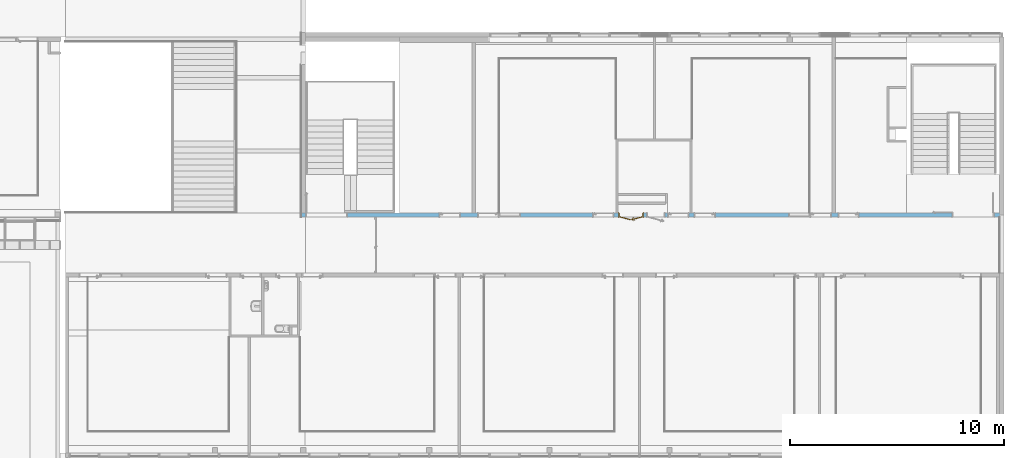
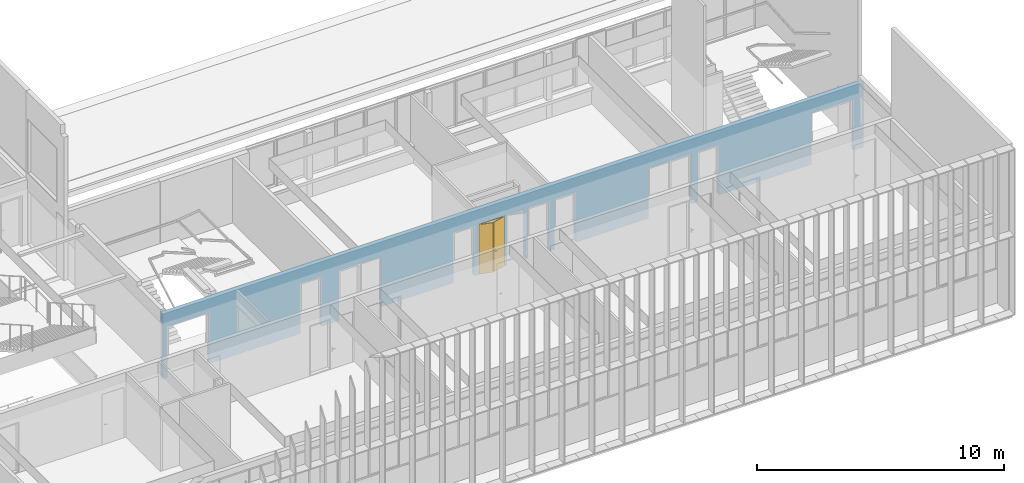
# One storey, part 87 of 106: 1 door, 13 openings, plus 1 element that does not belong to this part.
"""IFC2X3 building model written with IfcOpenShell, lengths in centimetres."""

from ifc_helpers import new_model, entity, si_unit, converted_unit, derived_unit, direction, frame, frame_2d, origin, place, context, subcontext, project, spatial, polyline, rectangle, extrude, clip, bounded_halfspace, faceted_brep, source, transform, mapped, material, material_list, layer, layer_set, layer_usage, type_object, type_shapes, element, fill, save


model = new_model("IFC2X3")

# Units and contexts
model_context = context("Model", 3, precision=0.001, world=origin(), true_north=direction((6.12303176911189e-17, 1.0)))
body_context = subcontext(model_context, "Body", "Model", "MODEL_VIEW")
ifc_project = project(units=[si_unit("LENGTHUNIT", "METRE", prefix="CENTI"), si_unit("AREAUNIT", "SQUARE_METRE"), si_unit("VOLUMEUNIT", "CUBIC_METRE"), converted_unit("PLANEANGLEUNIT", "DEGREE", entity("IfcRatioMeasure", 0.0174532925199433), si_unit("PLANEANGLEUNIT", "RADIAN"), dimensions=[0, 0, 0, 0, 0, 0, 0]), si_unit("MASSUNIT", "GRAM", prefix="KILO"), derived_unit("MASSDENSITYUNIT", [(si_unit("MASSUNIT", "GRAM", prefix="KILO"), 1), (si_unit("LENGTHUNIT", "METRE"), -3)]), si_unit("TIMEUNIT", "SECOND"), si_unit("FREQUENCYUNIT", "HERTZ"), si_unit("THERMODYNAMICTEMPERATUREUNIT", "DEGREE_CELSIUS"), derived_unit("THERMALTRANSMITTANCEUNIT", [(si_unit("MASSUNIT", "GRAM", prefix="KILO"), 1), (si_unit("THERMODYNAMICTEMPERATUREUNIT", "KELVIN"), -1), (si_unit("TIMEUNIT", "SECOND"), -3)]), derived_unit("VOLUMETRICFLOWRATEUNIT", [(si_unit("LENGTHUNIT", "METRE"), 3), (si_unit("TIMEUNIT", "SECOND"), -1)]), si_unit("ELECTRICCURRENTUNIT", "AMPERE"), si_unit("ELECTRICVOLTAGEUNIT", "VOLT"), si_unit("POWERUNIT", "WATT"), si_unit("FORCEUNIT", "NEWTON", prefix="KILO"), si_unit("ILLUMINANCEUNIT", "LUX"), si_unit("LUMINOUSFLUXUNIT", "LUMEN"), si_unit("LUMINOUSINTENSITYUNIT", "CANDELA"), derived_unit("USERDEFINED", [(si_unit("MASSUNIT", "GRAM", prefix="KILO"), -1), (si_unit("LENGTHUNIT", "METRE"), -2), (si_unit("TIMEUNIT", "SECOND"), 3), (si_unit("LUMINOUSFLUXUNIT", "LUMEN"), 1)]), derived_unit("LINEARVELOCITYUNIT", [(si_unit("LENGTHUNIT", "METRE"), 1), (si_unit("TIMEUNIT", "SECOND"), -1)]), si_unit("PRESSUREUNIT", "PASCAL"), derived_unit("USERDEFINED", [(si_unit("LENGTHUNIT", "METRE"), -2), (si_unit("MASSUNIT", "GRAM", prefix="KILO"), 1), (si_unit("TIMEUNIT", "SECOND"), -2)])], contexts=[model_context])

# Site, building, storey
site_placement = place(None, frame((-2781.94577612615, 7442.24238424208, 0.0)))
site = spatial("IfcSite", under=ifc_project, at=site_placement, Name="Default", CompositionType="ELEMENT")
building_placement = place(site_placement, origin())
building = spatial("IfcBuilding", under=site, at=building_placement, CompositionType="ELEMENT")
storey_placement = place(building_placement, frame((0.0, 0.0, 422.0)))
storey = spatial("IfcBuildingStorey", under=building, at=storey_placement, Name="Toiture - Cuisine", CompositionType="ELEMENT", Elevation=421.999999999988)

# Wall, openings, door
ifc_material_1 = material(Name="01 - Maçonnerie")
ifc_layer = layer(ifc_material_1, 20.0)
ifc_layer_set = layer_set([ifc_layer], Name="Mur de base:04 - Structure - béton - 20cm")
ifc_layer_usage = layer_usage(ifc_layer_set, "AXIS2", "NEGATIVE", 10.0)
wall_type = type_object("IfcWallType", Name="Mur de base:04 - Structure - béton - 20cm", PredefinedType="STANDARD", material=ifc_layer_set)
wall_placement = place(building_placement, frame((-3667.99987968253, -1920.07903364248, 422.0)))
wall = element("IfcWallStandardCase", 1, at=wall_placement, inside=storey, type_object=wall_type, material=ifc_layer_usage, Name="Mur de base:04 - Structure - béton - 20cm", ObjectType="Mur de base:04 - Structure - béton - 20cm", context=body_context, shape_type="Clipping", body=[
    clip(clip(extrude(rectangle(XDim=3277.99999684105, YDim=19.9999999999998, at=frame_2d((1638.99999842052, 6.21724893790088e-14), x_axis=(-1.0, 0.0))), origin(), (0.0, 0.0, 1.0), 321.0), bounded_halfspace(frame((0.0, -10.0, 321.0), z_axis=(0.0, 0.0, -1.0), x_axis=(0.0, 1.0, 0.0)), True, frame((0.0, -10.0, 321.0)), polyline([(0.0, 0.0), (20.0, 0.0), (20.0, 20.0), (0.0, 20.0), (0.0, 0.0)]))), bounded_halfspace(frame((458.699996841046, -10.0, 321.0), z_axis=(0.0, 0.0, -1.0), x_axis=(0.0, 1.0, 0.0)), True, frame((458.699996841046, -10.0, 321.0)), polyline([(0.0, 0.0), (2797.3, 0.0), (2799.29999999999, 0.0), (2799.29999999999, 10.0), (2799.29999999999, 20.0), (2034.0, 20.0), (2018.0, 20.0), (1914.0, 20.0), (1912.0, 20.0), (1363.8, 20.0), (1353.8, 20.0), (1249.8, 20.0), (1239.8, 20.0), (1149.8, 20.0), (1139.8, 20.0), (1019.8, 20.0), (1009.8, 20.0), (466.0, 20.0), (464.0, 20.0), (0.0, 20.0), (0.0, 0.0)]))),
])
opening_1_placement = place(wall_placement, frame((2502.69999684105, -10.0, 0.0)))
element("IfcOpeningElement", 2, at=opening_1_placement, cuts=wall, Name="Int. Simple:PP simple (0.93m x 2.50m):1", ObjectType="Opening", context=body_context, shape_type="SweptSolid", body=[
    extrude(rectangle(XDim=248.500000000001, YDim=99.9999999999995, at=frame_2d((124.250000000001, 49.9999999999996), x_axis=(1.0, 0.0))), frame((0.0, 0.0, 0.0), z_axis=(0.0, 1.0, 0.0), x_axis=(0.0, 0.0, 1.0)), (0.0, 0.0, 1.0), 20.0),
])
opening_2_placement = place(wall_placement, frame((2372.69999684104, -10.0, 0.0)))
element("IfcOpeningElement", 3, at=opening_2_placement, cuts=wall, Name="Int. Simple:PV (0.93m x 2.50m):1", ObjectType="Opening", context=body_context, shape_type="SweptSolid", body=[
    extrude(rectangle(XDim=248.500000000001, YDim=99.9999999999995, at=frame_2d((124.250000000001, 49.9999999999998), x_axis=(1.0, 0.0))), frame((0.0, 0.0, 0.0), z_axis=(0.0, 1.0, 0.0), x_axis=(0.0, 0.0, 1.0)), (0.0, 0.0, 1.0), 20.0),
])
opening_3_placement = place(wall_placement, frame((1832.49999684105, -10.0, 0.0)))
element("IfcOpeningElement", 4, at=opening_3_placement, cuts=wall, Name="Int. Simple:PV (0.93m x 2.50m):1", ObjectType="Opening", context=body_context, shape_type="SweptSolid", body=[
    extrude(rectangle(XDim=248.500000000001, YDim=99.9999999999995, at=frame_2d((124.250000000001, 49.9999999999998), x_axis=(1.0, 0.0))), frame((0.0, 0.0, 0.0), z_axis=(0.0, 1.0, 0.0), x_axis=(0.0, 0.0, 1.0)), (0.0, 0.0, 1.0), 20.0),
])
opening_4_placement = place(wall_placement, frame((1708.49999684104, -10.0, 0.0)))
element("IfcOpeningElement", 5, at=opening_4_placement, cuts=wall, Name="Int. Simple:PP simple (0.93m x 2.50m):1", ObjectType="Opening", context=body_context, shape_type="SweptSolid", body=[
    extrude(rectangle(XDim=248.500000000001, YDim=99.9999999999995, at=frame_2d((124.250000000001, 49.9999999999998), x_axis=(1.0, 0.0))), frame((0.0, 0.0, 0.0), z_axis=(0.0, 1.0, 0.0), x_axis=(0.0, 0.0, 1.0)), (0.0, 0.0, 1.0), 20.0),
])
opening_5_placement = place(wall_placement, frame((1358.49999684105, -10.0, 0.0)))
element("IfcOpeningElement", 6, at=opening_5_placement, cuts=wall, Name="Int. Simple:PV (0.93m x 2.50m):1", ObjectType="Opening", context=body_context, shape_type="SweptSolid", body=[
    extrude(rectangle(XDim=248.500000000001, YDim=99.9999999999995, at=frame_2d((124.250000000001, 49.9999999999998), x_axis=(1.0, 0.0))), frame((0.0, 0.0, 0.0), z_axis=(0.0, 1.0, 0.0), x_axis=(0.0, 0.0, 1.0)), (0.0, 0.0, 1.0), 20.0),
])
opening_6_placement = place(wall_placement, frame((822.699996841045, -10.0, 0.0)))
element("IfcOpeningElement", 7, at=opening_6_placement, cuts=wall, Name="Int. Simple:PV (0.93m x 2.50m):1", ObjectType="Opening", context=body_context, shape_type="SweptSolid", body=[
    extrude(rectangle(XDim=248.500000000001, YDim=99.9999999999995, at=frame_2d((124.250000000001, 49.9999999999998), x_axis=(1.0, 0.0))), frame((0.0, 0.0, 0.0), z_axis=(0.0, 1.0, 0.0), x_axis=(0.0, 0.0, 1.0)), (0.0, 0.0, 1.0), 20.0),
])
opening_7_placement = place(wall_placement, frame((642.699996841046, -10.0, 0.0)))
element("IfcOpeningElement", 8, at=opening_7_placement, cuts=wall, Name="Int. Simple:PP simple (0.93m x 2.50m):1", ObjectType="Opening", context=body_context, shape_type="SweptSolid", body=[
    extrude(rectangle(XDim=248.500000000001, YDim=99.9999999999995, at=frame_2d((124.250000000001, 49.9999999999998), x_axis=(1.0, 0.0))), frame((0.0, 0.0, 0.0), z_axis=(0.0, 1.0, 0.0), x_axis=(0.0, 0.0, 1.0)), (0.0, 0.0, 1.0), 20.0),
])
opening_8_placement = place(wall_placement, frame((2272.69999684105, -10.0, 0.0)))
element("IfcOpeningElement", 9, at=opening_8_placement, cuts=wall, Name="châssis intérieur vitré:châssis intérieur vitré (h=270) R+1:1", ObjectType="Opening", context=body_context, shape_type="SweptSolid", body=[
    extrude(rectangle(XDim=250.0, YDim=99.9999999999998, at=frame_2d((125.0, 49.9999999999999), x_axis=(1.0, 0.0))), frame((0.0, 0.0, 0.0), z_axis=(0.0, 1.0, 0.0), x_axis=(0.0, 0.0, 1.0)), (0.0, 0.0, 1.0), 20.0),
])
opening_9_placement = place(wall_placement, frame((922.699996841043, -10.0, 0.0)))
element("IfcOpeningElement", 10, at=opening_9_placement, cuts=wall, Name="châssis intérieur vitré:châssis intérieur vitré (h=270) R+1:1", ObjectType="Opening", context=body_context, shape_type="SweptSolid", body=[
    extrude(rectangle(XDim=250.0, YDim=99.9999999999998, at=frame_2d((125.0, 49.9999999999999), x_axis=(1.0, 0.0))), frame((0.0, 0.0, 0.0), z_axis=(0.0, 1.0, 0.0), x_axis=(0.0, 0.0, 1.0)), (0.0, 0.0, 1.0), 20.0),
])
opening_10_placement = place(wall_placement, frame((1697.0, 10.0, 0.0)))
element("IfcOpeningElement", 11, at=opening_10_placement, cuts=wall, Name="Int. Simple:PP Placard (0.80m x 2.50m):1", ObjectType="Opening", context=body_context, shape_type="SweptSolid", body=[
    extrude(rectangle(XDim=248.500000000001, YDim=86.9999999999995, at=frame_2d((124.250000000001, 43.4999999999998), x_axis=(1.0, 0.0))), frame((0.0, 0.0, 0.0), z_axis=(0.0, -1.0, 0.0), x_axis=(0.0, 0.0, 1.0)), (0.0, 0.0, 1.0), 20.0),
])
opening_11_placement = place(wall_placement, frame((1597.0, 10.0, 0.0)))
opening_11 = element("IfcOpeningElement", 12, at=opening_11_placement, cuts=wall, Name="Int. Double:PP Placard (1.10m x 2.50m):1", ObjectType="Opening", context=body_context, shape_type="SweptSolid", body=[
    extrude(rectangle(XDim=248.500000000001, YDim=117.0, at=frame_2d((124.250000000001, 58.5000000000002), x_axis=(1.0, 0.0))), frame((0.0, 0.0, 0.0), z_axis=(0.0, -1.0, 0.0), x_axis=(0.0, 0.0, 1.0)), (0.0, 0.0, 1.0), 20.0),
])
opening_12_placement = place(wall_placement, frame((3035.69999684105, -10.0, 0.0)))
element("IfcOpeningElement", 13, at=opening_12_placement, cuts=wall, Name="Int. Double:PP (1.90m x 2.50m):1", ObjectType="Opening", context=body_context, shape_type="SweptSolid", body=[
    extrude(rectangle(XDim=253.500000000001, YDim=197.0, at=frame_2d((126.750000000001, 98.5000000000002), x_axis=(1.0, 0.0))), frame((0.0, 0.0, 0.0), z_axis=(0.0, 1.0, 0.0), x_axis=(0.0, 0.0, 1.0)), (0.0, 0.0, 1.0), 20.0),
])
opening_13_placement = place(wall_placement, frame((20.0, -10.0, 0.0)))
element("IfcOpeningElement", 14, at=opening_13_placement, cuts=wall, Name="Int. Double:PP (1.90m x 2.50m):1", ObjectType="Opening", context=body_context, shape_type="SweptSolid", body=[
    extrude(rectangle(XDim=253.500000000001, YDim=197.0, at=frame_2d((126.750000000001, 98.5), x_axis=(1.0, 0.0))), frame((0.0, 0.0, 0.0), z_axis=(0.0, 1.0, 0.0), x_axis=(0.0, 0.0, 1.0)), (0.0, 0.0, 1.0), 20.0),
])
ifc_material_2 = material(Name="Bois - Panneau de porte")
ifc_material_3 = material(Name="Finition Peinture - Blanc satiné")
ifc_material_4 = material(Name="Bois - Cadre de porte")
ifc_material_list_1 = material_list([ifc_material_2, ifc_material_3, ifc_material_4])
ifc_material_list_2 = material_list([ifc_material_2, ifc_material_3, ifc_material_4])
door_style = type_object("IfcDoorStyle", Name="PP Placard (1.10m x 2.50m)", ConstructionType="NOTDEFINED", OperationType="DOUBLE_DOOR_SINGLE_SWING", ParameterTakesPrecedence=False, Sizeable=False, material=ifc_material_list_2)
shared_shape = source(origin(), body_context, "Body", "Brep", [
    faceted_brep([(57.6611966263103, -10.3713441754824, 245.0), (57.6611966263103, -10.3713441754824, 0.0), (4.53527618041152, 3.86370330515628, 0.0), (4.53527618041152, 3.86370330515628, 245.0), (56.6259204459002, -14.2350474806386, 245.0), (3.50000000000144, 0.0, 245.0), (3.50000000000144, 0.0, 0.0), (56.6259204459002, -14.2350474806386, 0.0)], [[[0, 1, 2, 3]], [[4, 5, 6, 7]], [[3, 5, 4, 0]], [[2, 6, 5, 3]], [[1, 7, 6, 2]], [[0, 4, 7, 1]]]),
    faceted_brep([(67.2990440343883, -12.897146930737, 86.6003983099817), (68.2308956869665, -12.6474580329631, 87.0), (68.2308956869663, -12.6474580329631, 108.0), (67.2990440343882, -12.897146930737, 108.399601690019), (66.2990440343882, -13.1650961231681, 108.535898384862), (65.2990440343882, -13.4330453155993, 108.399601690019), (64.3671923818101, -13.6827342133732, 108.0), (64.3671923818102, -13.6827342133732, 87.0), (65.2990440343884, -13.4330453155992, 86.6003983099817), (66.2990440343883, -13.1650961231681, 86.464101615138), (67.169634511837, -12.4141840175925, 108.399601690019), (68.1014861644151, -12.1644951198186, 108.0), (68.1014861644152, -12.1644951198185, 87.0), (67.1696345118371, -12.4141840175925, 86.6003983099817), (66.1696345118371, -12.6821332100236, 86.464101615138), (65.1696345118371, -12.9500824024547, 86.6003983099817), (64.2377828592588, -13.1997713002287, 87.0), (64.2377828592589, -13.1997713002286, 108.0), (65.169634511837, -12.9500824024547, 108.399601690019), (66.169634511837, -12.6821332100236, 108.535898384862)], [[[0, 1, 2, 3, 4, 5, 6, 7, 8, 9]], [[10, 11, 12, 13, 14, 15, 16, 17, 18, 19]], [[16, 15, 8, 7]], [[8, 15, 14, 9]], [[14, 13, 0, 9]], [[13, 12, 1, 0]], [[2, 1, 12, 11]], [[11, 10, 3, 2]], [[3, 10, 19, 4]], [[19, 18, 5, 4]], [[18, 17, 6, 5]], [[7, 6, 17, 16]]]),
    faceted_brep([(66.134358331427, -8.55048071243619, 86.6003983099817), (67.0662099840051, -8.30079181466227, 87.0), (67.066209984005, -8.30079181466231, 108.0), (66.1343583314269, -8.55048071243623, 108.399601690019), (65.1343583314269, -8.81842990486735, 108.535898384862), (64.1343583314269, -9.08637909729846, 108.399601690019), (63.2025066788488, -9.33606799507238, 108.0), (63.2025066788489, -9.33606799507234, 87.0), (64.134358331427, -9.08637909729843, 86.6003983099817), (65.134358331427, -8.81842990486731, 86.464101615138), (66.0049488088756, -8.0675177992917, 108.399601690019), (66.9368004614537, -7.81782890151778, 108.0), (66.9368004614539, -7.81782890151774, 87.0), (66.0049488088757, -8.06751779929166, 86.6003983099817), (65.0049488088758, -8.33546699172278, 86.464101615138), (64.0049488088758, -8.6034161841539, 86.6003983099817), (63.0730971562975, -8.85310508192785, 87.0), (63.0730971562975, -8.85310508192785, 108.0), (64.0049488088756, -8.60341618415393, 108.399601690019), (65.0049488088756, -8.33546699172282, 108.535898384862)], [[[0, 1, 2, 3, 4, 5, 6, 7, 8, 9]], [[10, 11, 12, 13, 14, 15, 16, 17, 18, 19]], [[11, 10, 3, 2]], [[3, 10, 19, 4]], [[19, 18, 5, 4]], [[18, 17, 6, 5]], [[7, 6, 17, 16]], [[16, 15, 8, 7]], [[8, 15, 14, 9]], [[14, 13, 0, 9]], [[13, 12, 1, 0]], [[2, 1, 12, 11]]]),
    faceted_brep([(66.1034152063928, -13.2175147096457, 100.778044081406), (66.4946728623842, -13.1126775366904, 100.778044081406), (66.8785995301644, -13.0098046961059, 100.699999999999), (66.8785995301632, -13.0098046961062, 99.3000000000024), (66.4946728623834, -13.1126775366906, 99.2219559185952), (66.1034152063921, -13.217514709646, 99.221955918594), (65.7194885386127, -13.3203875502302, 99.2999999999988), (65.7194885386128, -13.3203875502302, 100.7), (66.4351478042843, -15.9912642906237, 100.7), (66.7764631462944, -15.7293638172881, 100.778044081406), (68.742041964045, -16.8641912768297, 100.778044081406), (68.7992690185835, -16.4295086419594, 100.778044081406), (67.1242958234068, -15.4624624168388, 100.778044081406), (67.4656111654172, -15.200561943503, 100.7), (67.4656111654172, -15.2005619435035, 99.3000000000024), (67.1242958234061, -15.4624624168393, 99.2219559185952), (68.7992690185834, -16.4295086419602, 99.2219559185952), (68.7420419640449, -16.8641912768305, 99.221955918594), (66.7764631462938, -15.7293638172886, 99.221955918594), (66.4351478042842, -15.9912642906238, 99.2999999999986), (68.6858871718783, -17.2907292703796, 100.7), (68.8554238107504, -16.0029706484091, 100.7), (68.8554238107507, -16.0029706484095, 99.3000000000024), (68.6858871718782, -17.2907292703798, 99.2999999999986), (77.1513993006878, -15.0224021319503, 99.2999999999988), (77.0485264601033, -14.63847546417, 99.221955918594), (76.9436892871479, -14.2472178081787, 99.2219559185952), (76.8408164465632, -13.8632911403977, 99.3000000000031), (76.8408164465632, -13.8632911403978, 100.7), (76.9436892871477, -14.2472178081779, 100.778044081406), (77.048526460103, -14.6384754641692, 100.778044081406), (77.1513993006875, -15.0224021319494, 100.699999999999), (72.5428760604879, -16.257252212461, 100.7), (72.9238977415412, -15.5339920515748, 100.78786867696), (72.8481201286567, -14.9331308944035, 100.7), (72.8481201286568, -14.9331308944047, 99.3000000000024), (72.9238977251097, -15.5339920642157, 99.2121313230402), (72.5428763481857, -16.2572521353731, 99.2999999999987)], [[[0, 1, 2, 3, 4, 5, 6, 7]], [[8, 9, 0, 7]], [[9, 10, 11, 12, 1, 0]], [[12, 13, 2, 1]], [[3, 2, 13, 14]], [[14, 15, 4, 3]], [[15, 16, 17, 18, 5, 4]], [[18, 19, 6, 5]], [[7, 6, 19, 8]], [[20, 10, 9, 8]], [[11, 21, 13, 12]], [[14, 13, 21, 22]], [[22, 16, 15, 14]], [[17, 23, 19, 18]], [[8, 19, 23, 20]], [[24, 25, 26, 27, 28, 29, 30, 31]], [[32, 30, 33]], [[31, 30, 32]], [[10, 20, 32]], [[33, 34, 11]], [[21, 11, 34]], [[34, 29, 28]], [[30, 29, 33]], [[29, 34, 33]], [[10, 32, 33]], [[10, 33, 11]], [[22, 21, 34, 28, 27, 35]], [[35, 26, 36]], [[37, 36, 25]], [[22, 35, 16]], [[35, 27, 26]], [[24, 37, 25]], [[23, 17, 37]], [[37, 17, 36]], [[17, 16, 36]], [[16, 35, 36]], [[25, 36, 26]], [[20, 23, 37, 24, 31, 32]]]),
    faceted_brep([(64.8093199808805, -8.38788557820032, 100.778044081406), (64.4253933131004, -8.49075841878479, 100.7), (64.4253933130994, -8.49075841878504, 99.2999999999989), (64.8093199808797, -8.38788557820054, 99.221955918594), (65.2005776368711, -8.28304840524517, 99.2219559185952), (65.5845043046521, -8.18017556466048, 99.3000000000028), (65.5845043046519, -8.18017556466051, 100.7), (65.2005776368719, -8.28304840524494, 100.778044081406), (65.0025443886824, -6.00827159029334, 99.3000000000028), (65.0025443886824, -6.00827159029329, 100.7), (64.5760063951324, -5.95211679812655, 100.778044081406), (65.5527759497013, -4.26030230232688, 100.778044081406), (65.285874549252, -3.9124696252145, 100.778044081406), (64.141323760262, -5.89488974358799, 100.778044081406), (63.7147857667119, -5.83873495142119, 100.7), (63.7147857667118, -5.8387349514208, 99.2999999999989), (64.1413237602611, -5.89488974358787, 99.221955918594), (65.2858745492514, -3.91246962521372, 99.221955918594), (65.5527759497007, -4.26030230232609, 99.2219559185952), (64.5760063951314, -5.95211679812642, 99.2219559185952), (65.814676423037, -4.60161764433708, 99.3000000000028), (65.814676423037, -4.60161764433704, 100.7), (65.0239740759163, -3.57115428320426, 100.7), (65.0239740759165, -3.57115428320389, 99.2999999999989), (73.789408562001, -2.46479460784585, 99.3000000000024), (73.6865357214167, -2.08086794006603, 99.2219559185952), (73.5816985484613, -1.68961028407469, 99.221955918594), (73.4788257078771, -1.30568361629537, 99.2999999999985), (73.4788257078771, -1.30568361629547, 100.7), (73.5816985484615, -1.68961028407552, 100.778044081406), (73.6865357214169, -2.08086794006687, 100.778044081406), (73.7894085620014, -2.46479460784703, 100.7), (69.8020413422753, -3.53320643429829, 99.3000000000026), (69.8020424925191, -3.53320612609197, 100.7), (69.5672372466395, -2.97495629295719, 100.78786867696), (68.8809629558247, -2.53767722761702, 100.7), (68.880962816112, -2.53767726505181, 99.2999999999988), (69.5672372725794, -2.97495629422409, 99.2121313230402)], [[[0, 1, 2, 3, 4, 5, 6, 7]], [[6, 5, 8, 9]], [[9, 10, 7, 6]], [[10, 11, 12, 13, 0, 7]], [[13, 14, 1, 0]], [[2, 1, 14, 15]], [[15, 16, 3, 2]], [[16, 17, 18, 19, 4, 3]], [[19, 8, 5, 4]], [[9, 8, 20, 21]], [[21, 11, 10, 9]], [[12, 22, 14, 13]], [[15, 14, 22, 23]], [[23, 17, 16, 15]], [[18, 20, 8, 19]], [[24, 25, 26, 27, 28, 29, 30, 31]], [[21, 20, 32, 24, 31, 33]], [[33, 30, 34]], [[35, 34, 29]], [[21, 33, 11]], [[33, 31, 30]], [[28, 35, 29]], [[22, 12, 35]], [[35, 12, 34]], [[12, 11, 34]], [[11, 33, 34]], [[29, 34, 30]], [[22, 35, 28, 27, 36, 23]], [[36, 26, 37]], [[27, 26, 36]], [[17, 23, 36]], [[37, 32, 18]], [[20, 18, 32]], [[32, 25, 24]], [[26, 25, 37]], [[25, 32, 37]], [[17, 36, 37]], [[17, 37, 18]]]),
    faceted_brep([(59.3388033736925, -10.3713441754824, 245.0), (112.464723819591, 3.86370330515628, 245.0), (112.464723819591, 3.86370330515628, 0.0), (59.3388033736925, -10.3713441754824, 0.0), (60.3740795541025, -14.2350474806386, 245.0), (60.3740795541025, -14.2350474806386, 0.0), (113.500000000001, 0.0, 0.0), (113.500000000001, 0.0, 245.0)], [[[0, 1, 2, 3]], [[4, 5, 6, 7]], [[1, 0, 4, 7]], [[2, 1, 7, 6]], [[3, 2, 6, 5]], [[0, 3, 5, 4]]]),
    faceted_brep([(0.0, 0.0, 0.0), (0.0, 20.0, 0.0), (5.0, 20.0, 0.0), (5.0, 4.0, 0.0), (3.50000000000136, 4.0, 0.0), (3.50000000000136, 0.0, 0.0), (0.0, 0.0, 248.500000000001), (0.0, 20.0, 248.500000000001), (117.0, 20.0, 248.500000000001), (117.0, 20.0, 0.0), (112.0, 20.0, 0.0), (112.0, 20.0, 243.5), (5.0, 20.0, 243.5), (5.0, 4.0, 243.5), (112.0, 4.0, 243.5), (112.0, 4.0, 0.0), (113.499999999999, 4.0, 0.0), (113.499999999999, 4.0, 245.0), (3.50000000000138, 4.0, 245.0), (3.50000000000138, 0.0, 245.0), (113.499999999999, 0.0, 245.0), (113.499999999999, 0.0, 0.0), (117.0, 0.0, 0.0), (117.0, 0.0, 248.500000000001)], [[[0, 1, 2, 3, 4, 5]], [[1, 0, 6, 7]], [[2, 1, 7, 8, 9, 10, 11, 12]], [[3, 2, 12, 13]], [[4, 3, 13, 14, 15, 16, 17, 18]], [[5, 4, 18, 19]], [[0, 5, 19, 20, 21, 22, 23, 6]], [[8, 23, 22, 9]], [[22, 21, 16, 15, 10, 9]], [[14, 11, 10, 15]], [[20, 17, 16, 21]], [[7, 6, 23, 8]], [[13, 12, 11, 14]], [[19, 18, 17, 20]]]),
    faceted_brep([(1.50000000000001, 20.0, 0.0), (-1.49999999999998, 20.0, 0.0), (-1.49999999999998, 20.5000000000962, 0.0), (1.50000000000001, 20.5000000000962, 0.0), (1.50000000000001, 20.0, 247.0), (115.5, 20.0, 247.0), (115.5, 20.0, 0.0), (118.5, 20.0, 0.0), (118.5, 20.0, 250.0), (-1.5, 20.0, 250.0), (-1.5, 20.5000000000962, 250.0), (118.5, 20.5000000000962, 250.0), (118.5, 20.5000000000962, 0.0), (115.5, 20.5000000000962, 0.0), (115.5, 20.5000000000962, 247.0), (1.50000000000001, 20.5000000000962, 247.0)], [[[0, 1, 2, 3]], [[1, 0, 4, 5, 6, 7, 8, 9]], [[2, 1, 9, 10]], [[3, 2, 10, 11, 12, 13, 14, 15]], [[0, 3, 15, 4]], [[5, 14, 13, 6]], [[6, 13, 12, 7]], [[11, 8, 7, 12]], [[10, 9, 8, 11]], [[4, 15, 14, 5]]]),
    faceted_brep([(-1.49999999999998, -0.500000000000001, 0.0), (1.50000000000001, -0.500000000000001, 0.0), (1.50000000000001, -0.500000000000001, 247.0), (115.5, -0.500000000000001, 247.0), (115.5, -0.500000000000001, 0.0), (118.5, -0.500000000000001, 0.0), (118.5, -0.500000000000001, 250.0), (-1.5, -0.500000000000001, 250.0), (-1.49999999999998, 0.0, 0.0), (-1.5, 0.0, 250.0), (1.50000000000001, 0.0, 0.0), (118.5, 0.0, 250.0), (118.5, 0.0, 0.0), (115.5, 0.0, 0.0), (115.5, 0.0, 247.0), (1.50000000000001, 0.0, 247.0)], [[[0, 1, 2, 3, 4, 5, 6, 7]], [[8, 0, 7, 9]], [[10, 8, 9, 11, 12, 13, 14, 15]], [[1, 10, 15, 2]], [[3, 14, 13, 4]], [[11, 6, 5, 12]], [[9, 7, 6, 11]], [[2, 15, 14, 3]], [[4, 13, 12, 5]], [[1, 0, 8, 10]]]),
])
type_shapes(door_style, [shared_shape])
door_placement = place(opening_11_placement, frame((-117.000003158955, -20.0, 0.0)))
door = element("IfcDoor", 15, at=door_placement, inside=storey, type_object=door_style, material=ifc_material_list_1, Name="Int. Double:PP Placard (1.10m x 2.50m)", ObjectType="Int. Double:PP Placard (1.10m x 2.50m)", OverallHeight=248.500000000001, OverallWidth=117.0, context=body_context, shape_type="MappedRepresentation", body=[
    mapped(shared_shape, transform((0.0, 0.0, 0.0), scale=1.0)),
])
fill(opening_11, door)

save(model, "model.ifc")
